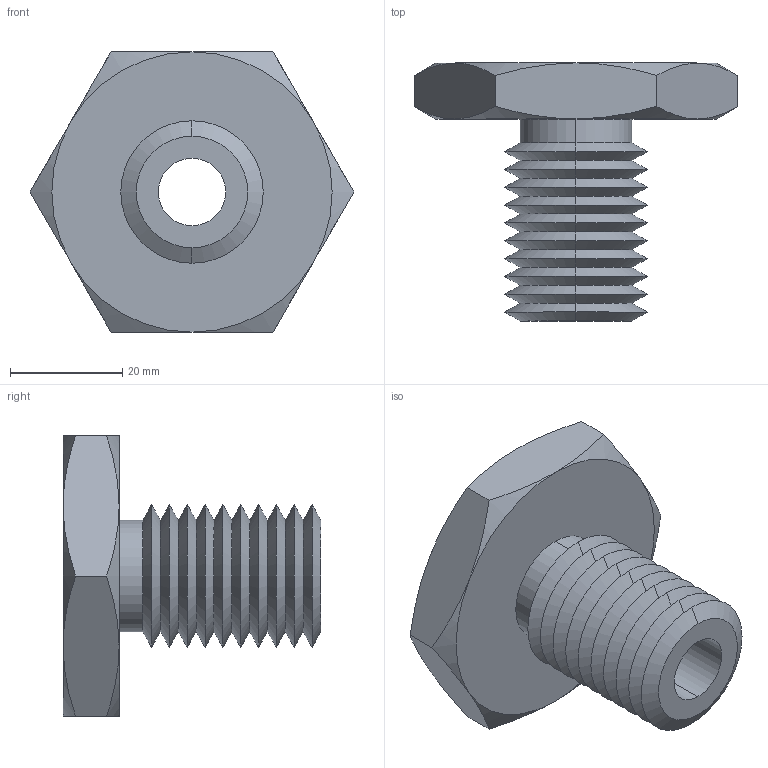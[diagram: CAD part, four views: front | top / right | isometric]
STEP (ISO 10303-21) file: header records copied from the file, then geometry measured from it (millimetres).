
FILE_DESCRIPTION (( 'STEP AP203' ), '1' );
FILE_NAME ('63302.W5100_M12x1,7.step', '2013-12-08T11:38:53', ( 'User' ), ( '' ), 'SwSTEP 2.0', 'SolidWorks 2009', '' );
FILE_SCHEMA (( 'CONFIG_CONTROL_DESIGN' ));
Length unit declared in the file: millimetre
Products named in the file (1): 63302.W5100_M12x1,7
Bounding box: 57.73 x 46 x 50 mm (x, y, z)
Volume: 30294 mm3; surface area: 12120.7 mm2
Topology: 1 solids, 1 shells, 67 faces, 138 edges, 74 vertices
Faces by surface type: cone 54, plane 9, cylinder 4
Entity records: 1939 total; most frequent: CARTESIAN_POINT 464, DIRECTION 312, ORIENTED_EDGE 276, EDGE_CURVE 138, AXIS2_PLACEMENT_3D 130, VERTEX_POINT 74, EDGE_LOOP 70, ADVANCED_FACE 67
